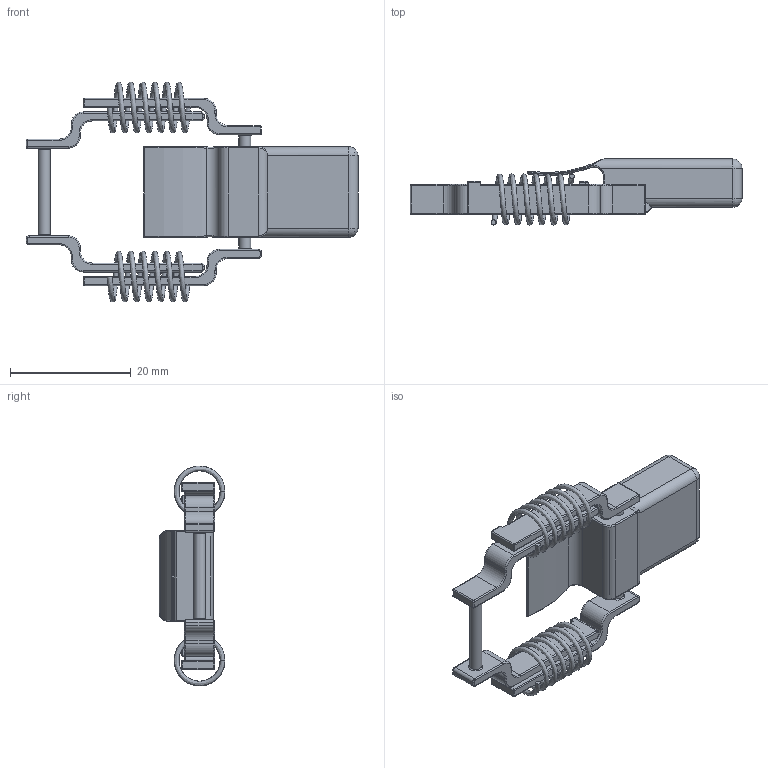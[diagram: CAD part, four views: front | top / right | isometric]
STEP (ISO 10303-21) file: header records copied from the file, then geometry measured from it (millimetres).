
FILE_DESCRIPTION(/* description */ (''),/* implementation_level */ '2;1');
FILE_NAME(/* name */ '\\NAS-MODULA\Backup-nas\Pubblica\DISEGNI 2017\5. ACCESSORI\CHIUSURE\CHIUSURE 3D\70030\70030.stp',/* time_stamp */ '2020-01-22T09:20:31+01:00',/* author */ ('Martin'),/* organization */ (''),/* preprocessor_version */ 'ST-DEVELOPER v17',/* originating_system */ 'Autodesk Inventor 2019',/* authorisation */ '');
FILE_SCHEMA (('AUTOMOTIVE_DESIGN { 1 0 10303 214 3 1 1 }'));
Length unit declared in the file: millimetre
Products named in the file (1): 70030
Bounding box: 55 x 10.91 x 36.41 mm (x, y, z)
Volume: 2102.3 mm3; surface area: 5378.6 mm2
Topology: 4 solids, 5 shells, 309 faces, 681 edges, 384 vertices
Faces by surface type: cylinder 138, plane 71, torus 62, sphere 24, bspline 14
Full cylindrical faces by diameter (mm): 2 x4
Entity records: 10632 total; most frequent: CARTESIAN_POINT 3696, DIRECTION 1593, ORIENTED_EDGE 1354, EDGE_CURVE 677, AXIS2_PLACEMENT_3D 648, VERTEX_POINT 384, CIRCLE 336, EDGE_LOOP 317
